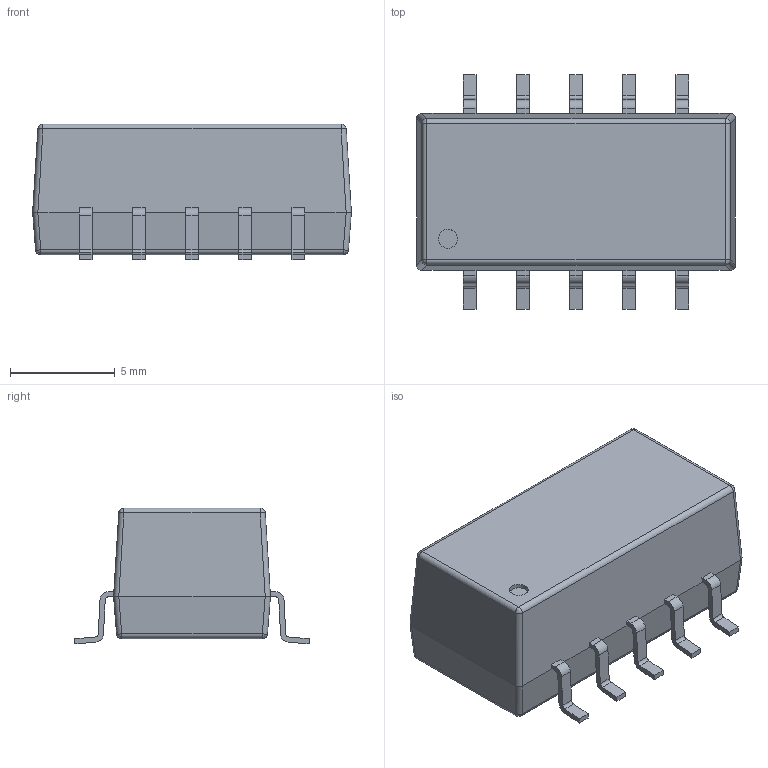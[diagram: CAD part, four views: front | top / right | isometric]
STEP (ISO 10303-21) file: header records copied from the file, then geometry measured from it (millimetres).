
FILE_DESCRIPTION((''),'2;1');
FILE_NAME('ISFXXXX','2017-11-01T',('eng706'),(''),'PRO/ENGINEER BY PARAMETRIC TECHNOLOGY CORPORATION, 2014000','PRO/ENGINEER BY PARAMETRIC TECHNOLOGY CORPORATION, 2014000','');
FILE_SCHEMA(('AUTOMOTIVE_DESIGN { 1 0 10303 214 1 1 1 1 }'));
Length unit declared in the file: millimetre
Products named in the file (1): ISFXXXX
Bounding box: 15.24 x 11.2 x 6.5 mm (x, y, z)
Volume: 686.7 mm3; surface area: 542.1 mm2
Topology: 1 solids, 1 shells, 166 faces, 445 edges, 274 vertices
Faces by surface type: plane 101, cylinder 57, bspline 8
Entity records: 7233 total; most frequent: CARTESIAN_POINT 1417, ORIENTED_EDGE 874, DIRECTION 853, PRESENTATION_STYLE_ASSIGNMENT 472, STYLED_ITEM 438, CURVE_STYLE 437, EDGE_CURVE 437, VECTOR 327
